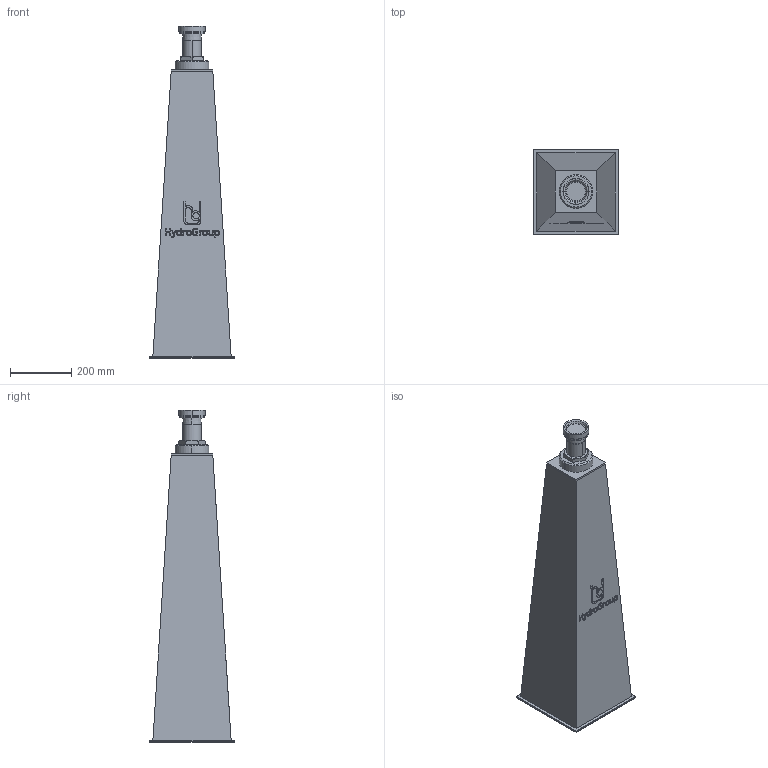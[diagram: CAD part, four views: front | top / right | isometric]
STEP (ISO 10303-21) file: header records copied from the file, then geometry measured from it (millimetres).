
FILE_DESCRIPTION(('STEP AP214'),'1');
FILE_NAME('RSRFE-III-09-V0.stp','2018-06-29T07:22:18',(' '),(' '),'Spatial InterOp 3D',' ',' ');
FILE_SCHEMA(('automotive_design'));
Length unit declared in the file: millimetre
Products named in the file (6): 1; 2; 3; 4; 5; 6
Bounding box: 276.01 x 276.01 x 1083.99 mm (x, y, z)
Volume: 38479474.5 mm3; surface area: 1118778.8 mm2
Topology: 6 solids, 6 shells, 226 faces, 558 edges, 363 vertices
Faces by surface type: plane 135, cylinder 33, cone 24, extrusion 24, torus 10
Entity records: 9120 total; most frequent: CARTESIAN_POINT 1827, ORIENTED_EDGE 1116, DIRECTION 1059, EDGE_CURVE 558, VECTOR 401, LINE 377, VERTEX_POINT 363, AXIS2_PLACEMENT_3D 329
